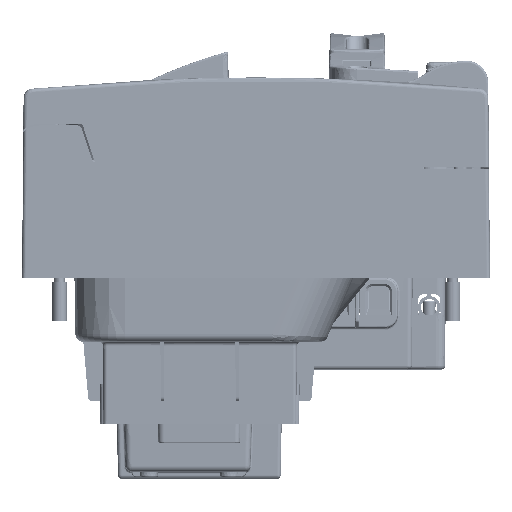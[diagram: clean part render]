
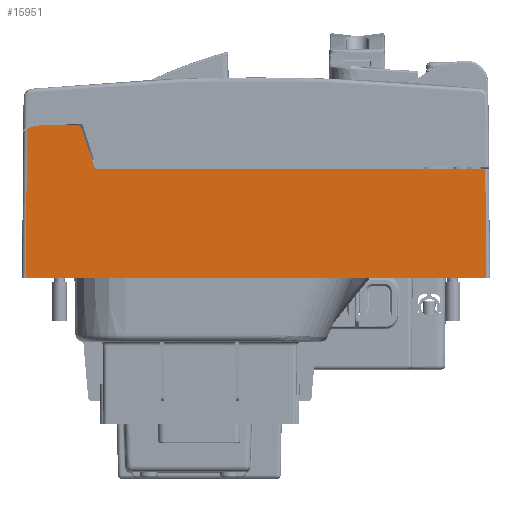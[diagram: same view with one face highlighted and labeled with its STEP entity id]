
A CAD part, left-side view. The second image highlights one B-rep face of the part: STEP entity #15951.
In plain terms, the highlighted planar face has unit normal (-1, 0, 0.009).
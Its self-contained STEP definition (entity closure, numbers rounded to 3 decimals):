
#1328=ELLIPSE('',#133729,7.2,7.2);
#1372=ELLIPSE('',#133922,1.3,1.3);
#1425=ELLIPSE('',#134271,1.,1.);
#15951=ADVANCED_FACE('',(#26742),#21913,.F.);
#21913=PLANE('',#134273);
#26742=FACE_OUTER_BOUND('',#34050,.T.);
#34050=EDGE_LOOP('',(#52929,#52930,#52931,#52932,#52933,#52934,#52935,#52936,
#52937));
#52929=ORIENTED_EDGE('',*,*,#95918,.F.);
#52930=ORIENTED_EDGE('',*,*,#95916,.T.);
#52931=ORIENTED_EDGE('',*,*,#95891,.F.);
#52932=ORIENTED_EDGE('',*,*,#95302,.T.);
#52933=ORIENTED_EDGE('',*,*,#94964,.T.);
#52934=ORIENTED_EDGE('',*,*,#94971,.T.);
#52935=ORIENTED_EDGE('',*,*,#95325,.F.);
#52936=ORIENTED_EDGE('',*,*,#95408,.F.);
#52937=ORIENTED_EDGE('',*,*,#95919,.T.);
#80656=VERTEX_POINT('',#206103);
#80657=VERTEX_POINT('',#206105);
#80662=VERTEX_POINT('',#206132);
#80932=VERTEX_POINT('',#207335);
#80944=VERTEX_POINT('',#207387);
#80999=VERTEX_POINT('',#207549);
#81293=VERTEX_POINT('',#208942);
#81306=VERTEX_POINT('',#209093);
#81307=VERTEX_POINT('',#209097);
#94964=EDGE_CURVE('',#80657,#80656,#111187,.T.);
#94971=EDGE_CURVE('',#80656,#80662,#1328,.T.);
#95302=EDGE_CURVE('',#80932,#80657,#1372,.T.);
#95325=EDGE_CURVE('',#80944,#80662,#111416,.T.);
#95408=EDGE_CURVE('',#80999,#80944,#111482,.T.);
#95891=EDGE_CURVE('',#80932,#81293,#111862,.T.);
#95916=EDGE_CURVE('',#81306,#81293,#1425,.T.);
#95918=EDGE_CURVE('',#81306,#81307,#111876,.T.);
#95919=EDGE_CURVE('',#80999,#81307,#111877,.T.);
#111187=LINE('',#206104,#122268);
#111416=LINE('',#207386,#122497);
#111482=LINE('',#207550,#122563);
#111862=LINE('',#208941,#122943);
#111876=LINE('',#209096,#122957);
#111877=LINE('',#209098,#122958);
#122268=VECTOR('',#153342,1.);
#122497=VECTOR('',#154009,1.);
#122563=VECTOR('',#154159,1.);
#122943=VECTOR('',#155085,1.);
#122957=VECTOR('',#155127,1.);
#122958=VECTOR('',#155128,1.);
#133729=AXIS2_PLACEMENT_3D('',#206133,#153352,#153353);
#133922=AXIS2_PLACEMENT_3D('',#207334,#153954,#153955);
#134271=AXIS2_PLACEMENT_3D('',#209092,#155122,#155123);
#134273=AXIS2_PLACEMENT_3D('',#209099,#155129,#155130);
#153342=DIRECTION('',(0.,1.,0.));
#153352=DIRECTION('',(-1.,0.,0.009));
#153353=DIRECTION('',(-0.009,0.,-1.));
#153954=DIRECTION('',(-1.,0.,0.009));
#153955=DIRECTION('',(0.009,0.,1.));
#154009=DIRECTION('',(0.009,-0.009,1.));
#154159=DIRECTION('',(0.,1.,0.));
#155085=DIRECTION('',(-0.008,-0.309,-0.951));
#155122=DIRECTION('',(1.,0.,-0.009));
#155123=DIRECTION('',(0.009,0.,1.));
#155127=DIRECTION('',(0.,-1.,0.));
#155128=DIRECTION('',(0.009,0.009,1.));
#155129=DIRECTION('',(1.,0.,-0.009));
#155130=DIRECTION('',(-0.009,0.,-1.));
#206103=CARTESIAN_POINT('',(-36.913,80.649,40.7));
#206104=CARTESIAN_POINT('',(-36.913,80.65,40.7));
#206105=CARTESIAN_POINT('',(-36.913,70.895,40.7));
#206132=CARTESIAN_POINT('',(-36.921,84.303,39.704));
#206133=CARTESIAN_POINT('',(-36.976,80.649,33.5));
#207334=CARTESIAN_POINT('',(-36.924,70.895,39.4));
#207335=CARTESIAN_POINT('',(-36.921,69.659,39.802));
#207386=CARTESIAN_POINT('',(-37.268,84.649,-0.005));
#207387=CARTESIAN_POINT('',(-37.268,84.649,0.));
#207549=CARTESIAN_POINT('',(-37.268,-38.351,0.));
#207550=CARTESIAN_POINT('',(-37.268,-38.352,0.));
#208941=CARTESIAN_POINT('',(-37.283,56.171,-1.709));
#208942=CARTESIAN_POINT('',(-37.009,66.374,29.691));
#209092=CARTESIAN_POINT('',(-37.006,65.423,30.));
#209093=CARTESIAN_POINT('',(-37.015,65.423,29.));
#209096=CARTESIAN_POINT('',(-37.015,-38.352,29.));
#209097=CARTESIAN_POINT('',(-37.015,-38.098,29.));
#209098=CARTESIAN_POINT('',(-37.015,-38.098,29.001));
#209099=CARTESIAN_POINT('',(-37.015,-38.352,29.001));
